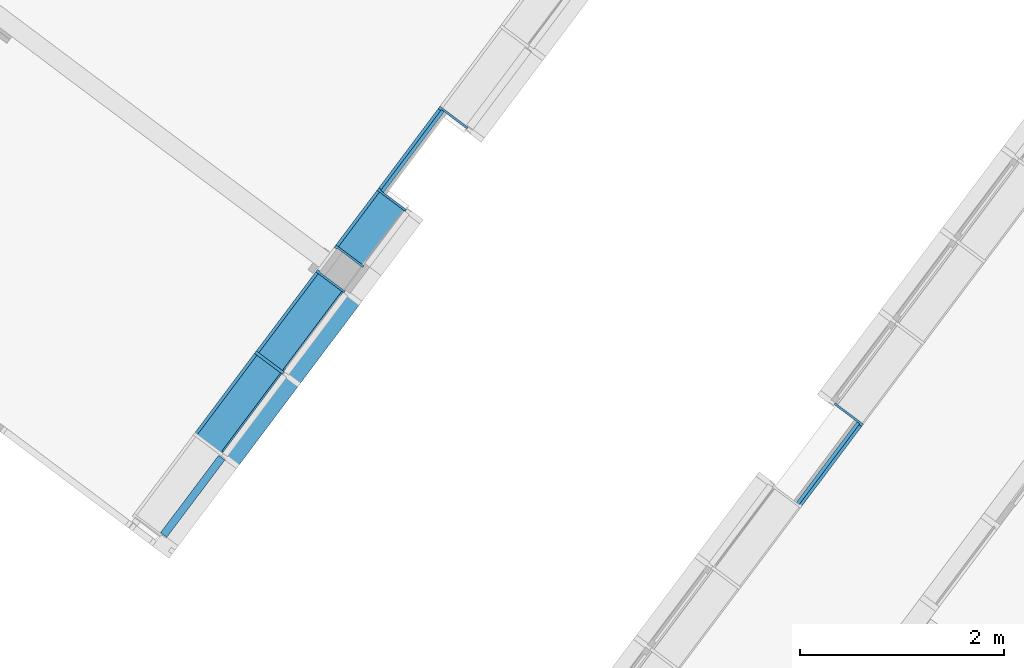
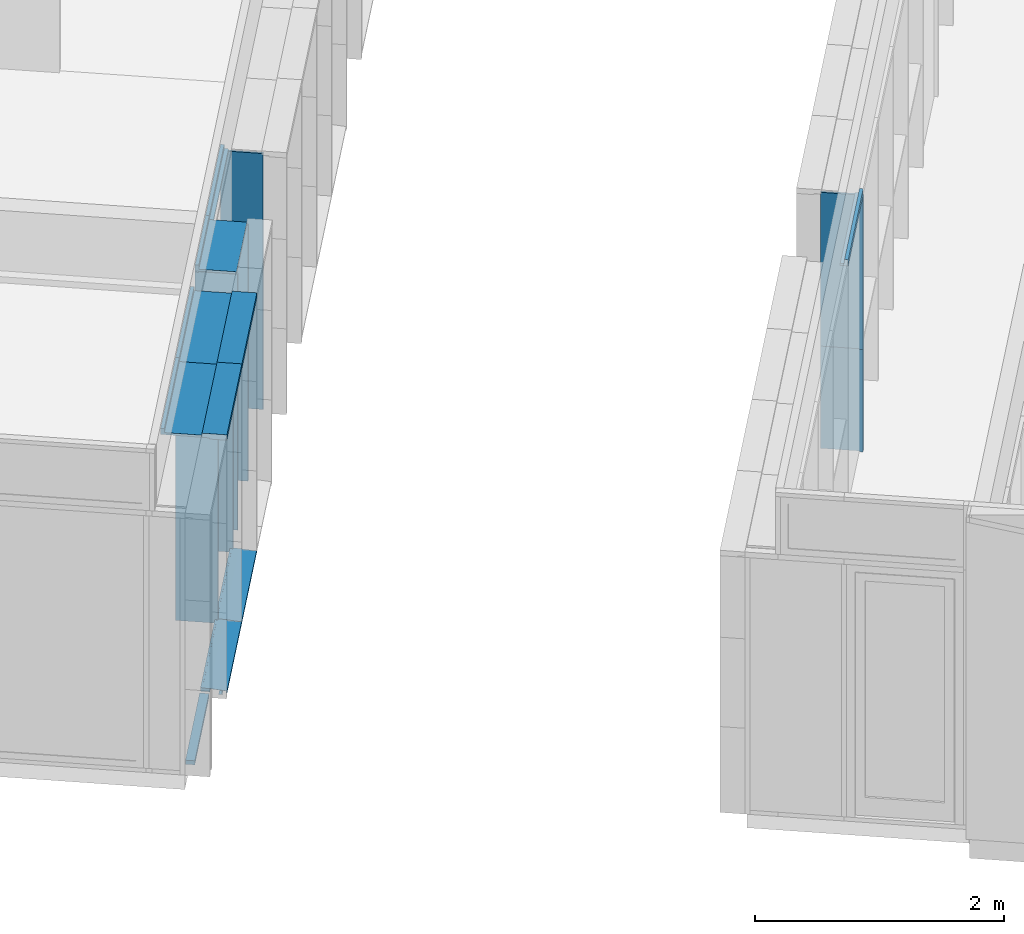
# One storey, part 43 of 243: 17 members, 3 elements without a shape of their own.
"""IFC2X3 building model written with IfcOpenShell, lengths in metres."""

from ifc_helpers import new_model, entity, si_unit, converted_unit, derived_unit, direction, frame, frame_2d, origin, origin_2d_with_axis, place, context, subcontext, project, spatial, polyline, circle_curve, parameter, trimmed, segment, composite_curve, rectangle, outline, extrude, source, transform, mapped, material, type_object, type_shapes, element, aggregate, save


model = new_model("IFC2X3")

# Units and contexts
model_context = context("Model", 3, precision=1e-05, world=origin(), true_north=direction((6.123031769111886e-17, 1.0)))
body_context = subcontext(model_context, "Body", "Model", "MODEL_VIEW")
ifc_project = project(units=[si_unit("LENGTHUNIT", "METRE"), si_unit("AREAUNIT", "SQUARE_METRE"), si_unit("VOLUMEUNIT", "CUBIC_METRE"), converted_unit("PLANEANGLEUNIT", "DEGREE", entity("IfcRatioMeasure", 0.017453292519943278), si_unit("PLANEANGLEUNIT", "RADIAN"), dimensions=[0, 0, 0, 0, 0, 0, 0]), si_unit("MASSUNIT", "GRAM", prefix="KILO"), derived_unit("MASSDENSITYUNIT", [(si_unit("MASSUNIT", "GRAM", prefix="KILO"), 1), (si_unit("LENGTHUNIT", "METRE"), -3)]), derived_unit("IONCONCENTRATIONUNIT", [(si_unit("MASSUNIT", "GRAM", prefix="KILO"), 1), (si_unit("LENGTHUNIT", "METRE"), -3)]), derived_unit("MOMENTOFINERTIAUNIT", [(si_unit("LENGTHUNIT", "METRE"), 4)]), si_unit("TIMEUNIT", "SECOND"), si_unit("FREQUENCYUNIT", "HERTZ"), si_unit("THERMODYNAMICTEMPERATUREUNIT", "DEGREE_CELSIUS"), derived_unit("THERMALTRANSMITTANCEUNIT", [(si_unit("MASSUNIT", "GRAM", prefix="KILO"), 1), (si_unit("THERMODYNAMICTEMPERATUREUNIT", "KELVIN"), -1), (si_unit("TIMEUNIT", "SECOND"), -3)]), derived_unit("THERMALCONDUCTANCEUNIT", [(si_unit("MASSUNIT", "GRAM", prefix="KILO"), 1), (si_unit("THERMODYNAMICTEMPERATUREUNIT", "KELVIN"), -1), (si_unit("TIMEUNIT", "SECOND"), -3), (si_unit("LENGTHUNIT", "METRE"), 1)]), derived_unit("VOLUMETRICFLOWRATEUNIT", [(si_unit("LENGTHUNIT", "METRE"), 3), (si_unit("TIMEUNIT", "SECOND"), -1)]), derived_unit("MASSFLOWRATEUNIT", [(si_unit("MASSUNIT", "GRAM", prefix="KILO"), 1), (si_unit("TIMEUNIT", "SECOND"), -1)]), derived_unit("ROTATIONALFREQUENCYUNIT", [(si_unit("TIMEUNIT", "SECOND"), -1)]), si_unit("ELECTRICCURRENTUNIT", "AMPERE"), si_unit("ELECTRICVOLTAGEUNIT", "VOLT"), si_unit("POWERUNIT", "WATT"), si_unit("FORCEUNIT", "NEWTON", prefix="KILO"), si_unit("ILLUMINANCEUNIT", "LUX"), si_unit("LUMINOUSFLUXUNIT", "LUMEN"), si_unit("LUMINOUSINTENSITYUNIT", "CANDELA"), derived_unit("USERDEFINED", [(si_unit("MASSUNIT", "GRAM", prefix="KILO"), -1), (si_unit("LENGTHUNIT", "METRE"), -2), (si_unit("TIMEUNIT", "SECOND"), 3), (si_unit("LUMINOUSFLUXUNIT", "LUMEN"), 1)]), derived_unit("USERDEFINED", [(si_unit("MASSUNIT", "GRAM", prefix="KILO"), 1), (si_unit("TIMEUNIT", "SECOND"), -3), (si_unit("LENGTHUNIT", "METRE"), 3), (si_unit("ELECTRICCURRENTUNIT", "AMPERE"), -2)]), derived_unit("SOUNDPOWERUNIT", [(si_unit("MASSUNIT", "GRAM", prefix="KILO"), 1), (si_unit("TIMEUNIT", "SECOND"), -3), (si_unit("LENGTHUNIT", "METRE"), 2)]), derived_unit("SOUNDPRESSUREUNIT", [(si_unit("MASSUNIT", "GRAM", prefix="KILO"), 1), (si_unit("LENGTHUNIT", "METRE"), -1), (si_unit("TIMEUNIT", "SECOND"), -2)]), derived_unit("LINEARVELOCITYUNIT", [(si_unit("LENGTHUNIT", "METRE"), 1), (si_unit("TIMEUNIT", "SECOND"), -1)]), si_unit("PRESSUREUNIT", "PASCAL"), derived_unit("USERDEFINED", [(si_unit("MASSUNIT", "GRAM", prefix="KILO"), 1), (si_unit("LENGTHUNIT", "METRE"), -2), (si_unit("TIMEUNIT", "SECOND"), -2)]), derived_unit("LINEARFORCEUNIT", [(si_unit("MASSUNIT", "GRAM", prefix="KILO"), 1), (si_unit("TIMEUNIT", "SECOND"), -2)]), derived_unit("PLANARFORCEUNIT", [(si_unit("MASSUNIT", "GRAM", prefix="KILO"), 1), (si_unit("LENGTHUNIT", "METRE"), -1), (si_unit("TIMEUNIT", "SECOND"), -2)]), derived_unit("SPECIFICHEATCAPACITYUNIT", [(si_unit("THERMODYNAMICTEMPERATUREUNIT", "KELVIN"), -1), (si_unit("LENGTHUNIT", "METRE"), 2), (si_unit("TIMEUNIT", "SECOND"), -2)]), derived_unit("HEATINGVALUEUNIT", [(si_unit("LENGTHUNIT", "METRE"), 2), (si_unit("TIMEUNIT", "SECOND"), -2)]), derived_unit("VAPORPERMEABILITYUNIT", [(si_unit("LENGTHUNIT", "METRE"), -1), (si_unit("TIMEUNIT", "SECOND"), 1)]), derived_unit("DYNAMICVISCOSITYUNIT", [(si_unit("MASSUNIT", "GRAM", prefix="KILO"), 1), (si_unit("TIMEUNIT", "SECOND"), -1), (si_unit("LENGTHUNIT", "METRE"), -1)]), derived_unit("THERMALEXPANSIONCOEFFICIENTUNIT", [(si_unit("THERMODYNAMICTEMPERATUREUNIT", "KELVIN"), -1)]), derived_unit("MODULUSOFELASTICITYUNIT", [(si_unit("MASSUNIT", "GRAM", prefix="KILO"), 1), (si_unit("LENGTHUNIT", "METRE"), -1), (si_unit("TIMEUNIT", "SECOND"), -2)]), derived_unit("ISOTHERMALMOISTURECAPACITYUNIT", [(si_unit("LENGTHUNIT", "METRE"), 3), (si_unit("MASSUNIT", "GRAM", prefix="KILO"), -1)]), derived_unit("MOISTUREDIFFUSIVITYUNIT", [(si_unit("TIMEUNIT", "SECOND"), -1), (si_unit("LENGTHUNIT", "METRE"), 2)])], contexts=[model_context])

# Site, building, storey
site_placement = place(None, frame((0.0, 0.0, 235.0), z_axis=(0.0, 0.0, 1.0), x_axis=(-0.7996477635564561, 0.6004693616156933, 0.0)))
site = spatial("IfcSite", under=ifc_project, at=site_placement, Name="Default", CompositionType="ELEMENT")
building_placement = place(site_placement, origin())
building = spatial("IfcBuilding", under=site, at=building_placement, CompositionType="ELEMENT")
storey_placement = place(building_placement, origin())
storey = spatial("IfcBuildingStorey", under=building, at=storey_placement, Name="P0- Escola", CompositionType="ELEMENT", Elevation=0.0)

# Curtain wall, members
curtain_wall_type_1 = type_object("IfcCurtainWallType", Name="Muro cortina:MC- EXT- MC2", PredefinedType="NOTDEFINED")
curtain_wall_1_placement = place(storey_placement, origin())
curtain_wall_1 = element("IfcCurtainWall", 1, at=curtain_wall_1_placement, inside=storey, type_object=curtain_wall_type_1, Name="Muro cortina:MC- EXT- MC2", ObjectType="Muro cortina:MC- EXT- MC2")
ifc_material_1 = material(Name="_Alumini- T1- Perfil")
member_type_1 = type_object("IfcMemberType", Name="Montante rectangular:MC- Alu- 140x52,5 cm- Fa patis- Superior", PredefinedType="MULLION", material=ifc_material_1)
shared_shape_1 = source(origin(), body_context, "Body", "SweptSolid", [
    extrude(outline(polyline([(-0.11366666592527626, -0.021249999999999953), (0.026333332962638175, -0.021249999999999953), (0.026333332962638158, -0.010000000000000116), (0.0873333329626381, -0.010000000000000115), (0.0873333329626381, 0.03125000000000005), (-0.11366666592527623, 0.031250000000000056), (-0.11366666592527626, -0.021249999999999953)])), frame((-0.031250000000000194, 0.0273333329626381, -1.0), z_axis=(0.0, 0.0, 1.0), x_axis=(0.0, -1.0, 0.0)), (0.0, 0.0, 1.0), 0.9999999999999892),
])
type_shapes(member_type_1, [shared_shape_1])
member_1_placement = place(curtain_wall_1_placement, frame((53.74514768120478, -22.415191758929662, 2.545), z_axis=(0.0, -1.0, 0.0), x_axis=(0.0, 0.0, 1.0)))
member_1 = element("IfcMember", 2, at=member_1_placement, type_object=member_type_1, material=ifc_material_1, Name="Montante rectangular:MC- Alu- 140x52,5 cm- Fa patis- Superior", ObjectType="Montante rectangular:MC- Alu- 140x52,5 cm- Fa patis- Superior", context=body_context, shape_type="MappedRepresentation", body=[
    mapped(shared_shape_1, transform((0.0, 0.0, 0.0), scale=1.0)),
])
member_2_placement = place(curtain_wall_1_placement, frame((53.74514768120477, -23.41519175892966, 2.545), z_axis=(0.0, -1.0, 0.0), x_axis=(0.0, 0.0, 1.0)))
member_2 = element("IfcMember", 3, at=member_2_placement, type_object=member_type_1, material=ifc_material_1, Name="Montante rectangular:MC- Alu- 140x52,5 cm- Fa patis- Superior", ObjectType="Montante rectangular:MC- Alu- 140x52,5 cm- Fa patis- Superior", context=body_context, shape_type="MappedRepresentation", body=[
    mapped(shared_shape_1, transform((0.0, 0.0, 0.0), scale=1.0)),
])
member_type_2 = type_object("IfcMemberType", Name="Montante rectangular:MC- Alu- 140x52,5 cm- Fa patis- inferior", PredefinedType="MULLION", material=ifc_material_1)
shared_shape_2 = source(origin(), body_context, "Body", "SweptSolid", [
    extrude(outline(composite_curve([segment(polyline([(0.1278672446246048, -0.02586710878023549), (0.14416724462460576, -0.025867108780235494)]), True, "CONTINUOUS"), segment(polyline([(0.14416724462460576, -0.025867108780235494), (0.1441672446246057, 0.009132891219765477)]), True, "CONTINUOUS"), segment(polyline([(0.1441672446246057, 0.009132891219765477), (0.06786724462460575, 0.009132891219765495)]), True, "CONTINUOUS"), segment(polyline([(0.06786724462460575, 0.009132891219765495), (0.06786724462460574, -0.021159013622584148)]), True, "CONTINUOUS"), segment(polyline([(0.06786724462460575, -0.02115901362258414), (-0.030132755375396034, -0.012332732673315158)]), True, "CONTINUOUS"), segment(polyline([(-0.03013275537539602, -0.012332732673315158), (-0.030132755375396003, 0.027132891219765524)]), True, "CONTINUOUS"), segment(polyline([(-0.030132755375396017, 0.02713289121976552), (-0.0021327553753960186, 0.02713289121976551)]), True, "CONTINUOUS"), segment(polyline([(-0.0021327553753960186, 0.027132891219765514), (-0.0021327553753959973, 0.029132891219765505)]), True, "CONTINUOUS"), segment(polyline([(-0.0021327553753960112, 0.029132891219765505), (-0.032132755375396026, 0.029132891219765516)]), True, "CONTINUOUS"), segment(polyline([(-0.032132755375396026, 0.029132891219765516), (-0.03213275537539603, -0.012152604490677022)]), True, "CONTINUOUS"), segment(polyline([(-0.03213275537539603, -0.012152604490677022), (-0.0701327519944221, -0.008730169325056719)]), True, "CONTINUOUS"), segment(polyline([(-0.0701327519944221, -0.008730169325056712), (-0.0701327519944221, 0.005766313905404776)]), True, "CONTINUOUS"), segment(trimmed(circle_curve(frame_2d((-0.0696327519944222, 0.0057663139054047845), x_axis=(-1.0, 0.0)), 0.0004999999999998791), [parameter(269.999999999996)], [parameter(0.0)], True, "PARAMETER"), False, "CONTINUOUS"), segment(polyline([(-0.0696327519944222, 0.00626631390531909), (-0.06213275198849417, 0.006266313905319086)]), True, "CONTINUOUS"), segment(polyline([(-0.06213275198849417, 0.006266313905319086), (-0.06213275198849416, 0.008266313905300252)]), True, "CONTINUOUS"), segment(polyline([(-0.06213275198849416, 0.008266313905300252), (-0.07013275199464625, 0.008266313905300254)]), True, "CONTINUOUS"), segment(trimmed(circle_curve(frame_2d((-0.07013275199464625, 0.006266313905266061), x_axis=(0.0, 1.0)), 0.0020000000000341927), [parameter(0.0)], [parameter(90.00000002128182)], True, "PARAMETER"), True, "CONTINUOUS"), segment(polyline([(-0.07213275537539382, 0.006266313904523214), (-0.07213275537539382, -0.008730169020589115)]), True, "CONTINUOUS"), segment(trimmed(circle_curve(frame_2d((-0.07013275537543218, -0.008730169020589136), x_axis=(-1.0, 0.0)), 0.0019999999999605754), [parameter(0.0)], [parameter(84.85359280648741)], True, "PARAMETER"), True, "CONTINUOUS"), segment(polyline([(-0.07031215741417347, -0.01072210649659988), (0.06786724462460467, -0.023167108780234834)]), True, "CONTINUOUS"), segment(polyline([(0.06786724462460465, -0.023167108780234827), (0.12786724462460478, -0.023167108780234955)]), True, "CONTINUOUS"), segment(polyline([(0.12786724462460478, -0.023167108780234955), (0.1278672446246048, -0.02586710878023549)]), True, "CONTINUOUS")], self_intersect=False)), frame((-0.029132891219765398, 0.06786724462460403, -0.9737499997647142), z_axis=(0.0, 0.0, 1.0), x_axis=(0.0, -1.0, 0.0)), (0.0, 0.0, 1.0), 0.9737499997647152),
])
type_shapes(member_type_2, [shared_shape_2])
member_3_placement = place(curtain_wall_1_placement, frame((53.74514768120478, -21.441441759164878, -0.02), z_axis=(0.0, 1.0, 0.0), x_axis=(0.0, 0.0, -1.0)))
member_3 = element("IfcMember", 4, at=member_3_placement, type_object=member_type_2, material=ifc_material_1, Name="Montante rectangular:MC- Alu- 140x52,5 cm- Fa patis- inferior", ObjectType="Montante rectangular:MC- Alu- 140x52,5 cm- Fa patis- inferior", context=body_context, shape_type="MappedRepresentation", body=[
    mapped(shared_shape_2, transform((0.0, 0.0, 0.0), scale=1.0)),
])
member_type_3 = type_object("IfcMemberType", Name="Montante rectangular:MC- Alu- 140x52,5 cm- Fa patis- inferior", PredefinedType="MULLION", material=ifc_material_1)
shared_shape_3 = source(origin(), body_context, "Body", "SweptSolid", [
    extrude(outline(composite_curve([segment(polyline([(0.1278672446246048, -0.02586710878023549), (0.14416724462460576, -0.025867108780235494)]), True, "CONTINUOUS"), segment(polyline([(0.14416724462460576, -0.025867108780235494), (0.1441672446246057, 0.009132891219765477)]), True, "CONTINUOUS"), segment(polyline([(0.1441672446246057, 0.009132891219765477), (0.06786724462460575, 0.009132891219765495)]), True, "CONTINUOUS"), segment(polyline([(0.06786724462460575, 0.009132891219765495), (0.06786724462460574, -0.021159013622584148)]), True, "CONTINUOUS"), segment(polyline([(0.06786724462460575, -0.02115901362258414), (-0.030132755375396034, -0.012332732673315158)]), True, "CONTINUOUS"), segment(polyline([(-0.03013275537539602, -0.012332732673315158), (-0.030132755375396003, 0.027132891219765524)]), True, "CONTINUOUS"), segment(polyline([(-0.030132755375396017, 0.02713289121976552), (-0.0021327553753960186, 0.02713289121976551)]), True, "CONTINUOUS"), segment(polyline([(-0.0021327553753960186, 0.027132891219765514), (-0.0021327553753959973, 0.029132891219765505)]), True, "CONTINUOUS"), segment(polyline([(-0.0021327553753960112, 0.029132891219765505), (-0.032132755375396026, 0.029132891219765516)]), True, "CONTINUOUS"), segment(polyline([(-0.032132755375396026, 0.029132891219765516), (-0.03213275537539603, -0.012152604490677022)]), True, "CONTINUOUS"), segment(polyline([(-0.03213275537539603, -0.012152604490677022), (-0.0701327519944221, -0.008730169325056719)]), True, "CONTINUOUS"), segment(polyline([(-0.0701327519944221, -0.008730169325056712), (-0.0701327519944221, 0.005766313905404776)]), True, "CONTINUOUS"), segment(trimmed(circle_curve(frame_2d((-0.0696327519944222, 0.0057663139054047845), x_axis=(-1.0, 0.0)), 0.0004999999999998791), [parameter(269.999999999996)], [parameter(0.0)], True, "PARAMETER"), False, "CONTINUOUS"), segment(polyline([(-0.0696327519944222, 0.00626631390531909), (-0.06213275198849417, 0.006266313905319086)]), True, "CONTINUOUS"), segment(polyline([(-0.06213275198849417, 0.006266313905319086), (-0.06213275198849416, 0.008266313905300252)]), True, "CONTINUOUS"), segment(polyline([(-0.06213275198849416, 0.008266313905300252), (-0.07013275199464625, 0.008266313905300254)]), True, "CONTINUOUS"), segment(trimmed(circle_curve(frame_2d((-0.07013275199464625, 0.006266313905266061), x_axis=(0.0, 1.0)), 0.0020000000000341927), [parameter(0.0)], [parameter(90.00000002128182)], True, "PARAMETER"), True, "CONTINUOUS"), segment(polyline([(-0.07213275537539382, 0.006266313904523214), (-0.07213275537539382, -0.008730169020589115)]), True, "CONTINUOUS"), segment(trimmed(circle_curve(frame_2d((-0.07013275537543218, -0.008730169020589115), x_axis=(-1.0, 0.0)), 0.0019999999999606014), [parameter(0.0)], [parameter(84.8535928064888)], True, "PARAMETER"), True, "CONTINUOUS"), segment(polyline([(-0.07031215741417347, -0.01072210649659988), (0.06786724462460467, -0.023167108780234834)]), True, "CONTINUOUS"), segment(polyline([(0.06786724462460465, -0.023167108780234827), (0.12786724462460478, -0.023167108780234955)]), True, "CONTINUOUS"), segment(polyline([(0.12786724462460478, -0.023167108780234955), (0.1278672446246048, -0.02586710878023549)]), True, "CONTINUOUS")], self_intersect=False)), frame((-0.029132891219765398, 0.06786724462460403, -1.0), z_axis=(0.0, 0.0, 1.0), x_axis=(0.0, -1.0, 0.0)), (0.0, 0.0, 1.0), 0.9999999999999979),
])
type_shapes(member_type_3, [shared_shape_3])
member_4_placement = place(curtain_wall_1_placement, frame((53.74514768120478, -22.415191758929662, -0.02), z_axis=(0.0, 1.0, 0.0), x_axis=(0.0, 0.0, -1.0)))
member_4 = element("IfcMember", 5, at=member_4_placement, type_object=member_type_3, material=ifc_material_1, Name="Montante rectangular:MC- Alu- 140x52,5 cm- Fa patis- inferior", ObjectType="Montante rectangular:MC- Alu- 140x52,5 cm- Fa patis- inferior", context=body_context, shape_type="MappedRepresentation", body=[
    mapped(shared_shape_3, transform((0.0, 0.0, 0.0), scale=1.0)),
])

curtain_wall_type_2 = type_object("IfcCurtainWallType", Name="Muro cortina:MC- INT- k7- Aules infantil", PredefinedType="NOTDEFINED")
curtain_wall_2_placement = place(storey_placement, origin())
curtain_wall_2 = element("IfcCurtainWall", 6, at=curtain_wall_2_placement, inside=storey, type_object=curtain_wall_type_2, Name="Muro cortina:MC- INT- k7- Aules infantil", ObjectType="Muro cortina:MC- INT- k7- Aules infantil")
ifc_material_2 = material(Name="_Fusta massisa- T1")
member_type_4 = type_object("IfcMemberType", Name="Montante rectangular:MC- Fusta- 35x3 cm- Centre", PredefinedType="MULLION", material=ifc_material_2)
shared_shape_4 = source(origin(), body_context, "Body", "SweptSolid", [
    extrude(rectangle(XDim=0.3450000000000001, YDim=0.030000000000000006, at=frame_2d((0.0, 1.3964523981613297e-16), x_axis=(1.0, 0.0))), frame((0.0, 0.07750000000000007, -2.5049999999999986), z_axis=(0.0, 0.0, 1.0), x_axis=(0.0, -1.0, 0.0)), (0.0, 0.0, 1.0), 2.5049999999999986),
])
type_shapes(member_type_4, [shared_shape_4])
member_5_placement = place(curtain_wall_2_placement, frame((54.04514768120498, -22.41519175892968, 0.0), z_axis=(0.0, 0.0, -1.0), x_axis=(0.0, -1.0, 0.0)))
member_5 = element("IfcMember", 7, at=member_5_placement, type_object=member_type_4, material=ifc_material_2, Name="Montante rectangular:MC- Fusta- 35x3 cm- Centre", ObjectType="Montante rectangular:MC- Fusta- 35x3 cm- Centre", context=body_context, shape_type="MappedRepresentation", body=[
    mapped(shared_shape_4, transform((0.0, 0.0, 0.0), scale=1.0)),
])
member_type_5 = type_object("IfcMemberType", Name="Montante rectangular:MC- Fusta- 35x3 cm- Pati aules- Remat superior", PredefinedType="MULLION", material=ifc_material_2)
shared_shape_5 = source(origin(), body_context, "Body", "SweptSolid", [
    extrude(outline(polyline([(-0.21333333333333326, -0.02666666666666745), (0.1216666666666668, -0.02666666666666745), (0.12166666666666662, 0.03333333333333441), (0.09166666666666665, 0.03333333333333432), (0.09166666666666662, -0.006666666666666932), (-0.2133333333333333, -0.006666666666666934), (-0.21333333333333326, -0.02666666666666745)])), frame((-0.033333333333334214, 0.026666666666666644, -1.0), z_axis=(0.0, 0.0, 1.0), x_axis=(0.0, -1.0, 0.0)), (0.0, 0.0, 1.0), 0.9999999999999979),
])
type_shapes(member_type_5, [shared_shape_5])
member_6_placement = place(curtain_wall_2_placement, frame((54.04514768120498, -22.41519175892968, 2.565), z_axis=(0.0, -1.0, 0.0), x_axis=(0.0, 0.0, 1.0)))
member_6 = element("IfcMember", 8, at=member_6_placement, type_object=member_type_5, material=ifc_material_2, Name="Montante rectangular:MC- Fusta- 35x3 cm- Pati aules- Remat superior", ObjectType="Montante rectangular:MC- Fusta- 35x3 cm- Pati aules- Remat superior", context=body_context, shape_type="MappedRepresentation", body=[
    mapped(shared_shape_5, transform((0.0, 0.0, 0.0), scale=1.0)),
])
member_7_placement = place(curtain_wall_2_placement, frame((54.04514768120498, -23.415191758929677, 2.565), z_axis=(0.0, -1.0, 0.0), x_axis=(0.0, 0.0, 1.0)))
member_7 = element("IfcMember", 9, at=member_7_placement, type_object=member_type_5, material=ifc_material_2, Name="Montante rectangular:MC- Fusta- 35x3 cm- Pati aules- Remat superior", ObjectType="Montante rectangular:MC- Fusta- 35x3 cm- Pati aules- Remat superior", context=body_context, shape_type="MappedRepresentation", body=[
    mapped(shared_shape_5, transform((0.0, 0.0, 0.0), scale=1.0)),
])
member_type_6 = type_object("IfcMemberType", Name="Montante rectangular:MC- Fusta- 35x3 cm- Pati aules- Remat dreta", PredefinedType="MULLION", material=ifc_material_2)
shared_shape_6 = source(origin(), body_context, "Body", "SweptSolid", [
    extrude(outline(polyline([(-0.22, -0.01666666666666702), (0.12500000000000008, -0.01666666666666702), (0.12500000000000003, 0.013333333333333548), (0.09500000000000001, 0.013333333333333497), (0.09499999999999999, 0.003333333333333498), (-0.22, 0.003333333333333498), (-0.22, -0.01666666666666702)])), frame((0.0016666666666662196, 0.03000000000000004, -2.504999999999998), z_axis=(0.0, 0.0, 1.0), x_axis=(0.0, -1.0, 0.0)), (0.0, 0.0, 1.0), 2.5049999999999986),
])
type_shapes(member_type_6, [shared_shape_6])
member_8_placement = place(curtain_wall_2_placement, frame((54.04514768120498, -23.415191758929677, 0.0), z_axis=(0.0, 0.0, -1.0), x_axis=(0.0, -1.0, 0.0)))
member_8 = element("IfcMember", 10, at=member_8_placement, type_object=member_type_6, material=ifc_material_2, Name="Montante rectangular:MC- Fusta- 35x3 cm- Pati aules- Remat dreta", ObjectType="Montante rectangular:MC- Fusta- 35x3 cm- Pati aules- Remat dreta", context=body_context, shape_type="MappedRepresentation", body=[
    mapped(shared_shape_6, transform((0.0, 0.0, 0.0), scale=1.0)),
])
member_9_placement = place(curtain_wall_2_placement, frame((54.04514768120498, -24.415191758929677, 0.0), z_axis=(0.0, 0.0, -1.0), x_axis=(0.0, -1.0, 0.0)))
member_9 = element("IfcMember", 11, at=member_9_placement, type_object=member_type_6, material=ifc_material_2, Name="Montante rectangular:MC- Fusta- 35x3 cm- Pati aules- Remat dreta", ObjectType="Montante rectangular:MC- Fusta- 35x3 cm- Pati aules- Remat dreta", context=body_context, shape_type="MappedRepresentation", body=[
    mapped(shared_shape_6, transform((0.0, 0.0, 0.0), scale=1.0)),
])
member_type_7 = type_object("IfcMemberType", Name="Montante rectangular:MC- Fusta- 35x3 cm- Pati aules- Remat superior", PredefinedType="MULLION", material=ifc_material_2)
shared_shape_7 = source(origin(), body_context, "Body", "SweptSolid", [
    extrude(outline(polyline([(-0.21333333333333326, -0.02666666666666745), (0.1216666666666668, -0.02666666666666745), (0.12166666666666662, 0.03333333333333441), (0.09166666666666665, 0.03333333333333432), (0.09166666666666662, -0.006666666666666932), (-0.2133333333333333, -0.006666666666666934), (-0.21333333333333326, -0.02666666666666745)])), frame((-0.033333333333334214, 0.026666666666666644, -0.6999999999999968), z_axis=(0.0, 0.0, 1.0), x_axis=(0.0, -1.0, 0.0)), (0.0, 0.0, 1.0), 0.6999999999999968),
])
type_shapes(member_type_7, [shared_shape_7])
member_10_placement = place(curtain_wall_2_placement, frame((54.04514768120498, -24.415191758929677, 2.565), z_axis=(0.0, -1.0, 0.0), x_axis=(0.0, 0.0, 1.0)))
member_10 = element("IfcMember", 12, at=member_10_placement, type_object=member_type_7, material=ifc_material_2, Name="Montante rectangular:MC- Fusta- 35x3 cm- Pati aules- Remat superior", ObjectType="Montante rectangular:MC- Fusta- 35x3 cm- Pati aules- Remat superior", context=body_context, shape_type="MappedRepresentation", body=[
    mapped(shared_shape_7, transform((0.0, 0.0, 0.0), scale=1.0)),
])
member_type_8 = type_object("IfcMemberType", Name="Montante rectangular:MC- Fusta- 35x3 cm- Pati aules- Remat superior pilar", PredefinedType="MULLION", material=ifc_material_2)
shared_shape_8 = source(origin(), body_context, "Body", "SweptSolid", [
    extrude(outline(polyline([(-0.03333333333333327, -0.02666666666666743), (0.031666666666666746, -0.02666666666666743), (0.031666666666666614, 0.03333333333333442), (0.0016666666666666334, 0.033333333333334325), (0.0016666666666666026, -0.006666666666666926), (-0.03333333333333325, -0.00666666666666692), (-0.03333333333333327, -0.02666666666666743)])), frame((-0.03333333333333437, -0.06333333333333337, -1.0), z_axis=(0.0, 0.0, 1.0), x_axis=(0.0, -1.0, 0.0)), (0.0, 0.0, 1.0), 0.9999999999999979),
])
type_shapes(member_type_8, [shared_shape_8])
member_11_placement = place(curtain_wall_2_placement, frame((54.04514768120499, -25.415191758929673, 2.565), z_axis=(0.0, -1.0, 0.0), x_axis=(0.0, 0.0, 1.0)))
member_11 = element("IfcMember", 13, at=member_11_placement, type_object=member_type_8, material=ifc_material_2, Name="Montante rectangular:MC- Fusta- 35x3 cm- Pati aules- Remat superior pilar", ObjectType="Montante rectangular:MC- Fusta- 35x3 cm- Pati aules- Remat superior pilar", context=body_context, shape_type="MappedRepresentation", body=[
    mapped(shared_shape_8, transform((0.0, 0.0, 0.0), scale=1.0)),
])
member_type_9 = type_object("IfcMemberType", Name="Montante rectangular:MC- Fusta- 35x3 cm- Pati aules- Remat esquerra", PredefinedType="MULLION", material=ifc_material_2)
shared_shape_9 = source(origin(), body_context, "Body", "SweptSolid", [
    extrude(outline(polyline([(0.09500000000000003, -0.013333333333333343), (0.12500000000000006, -0.013333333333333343), (0.12500000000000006, 0.01666666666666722), (-0.22000000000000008, 0.016666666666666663), (-0.22000000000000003, -0.0033333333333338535), (0.09499999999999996, -0.003333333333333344), (0.09500000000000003, -0.013333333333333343)])), frame((-0.0016666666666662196, 0.03000000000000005, -2.504999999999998), z_axis=(0.0, 0.0, 1.0), x_axis=(0.0, -1.0, 0.0)), (0.0, 0.0, 1.0), 2.5049999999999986),
])
type_shapes(member_type_9, [shared_shape_9])
member_12_placement = place(curtain_wall_2_placement, frame((54.04514768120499, -25.415191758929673, 0.0), z_axis=(0.0, 0.0, -1.0), x_axis=(0.0, -1.0, 0.0)))
member_12 = element("IfcMember", 14, at=member_12_placement, type_object=member_type_9, material=ifc_material_2, Name="Montante rectangular:MC- Fusta- 35x3 cm- Pati aules- Remat esquerra", ObjectType="Montante rectangular:MC- Fusta- 35x3 cm- Pati aules- Remat esquerra", context=body_context, shape_type="MappedRepresentation", body=[
    mapped(shared_shape_9, transform((0.0, 0.0, 0.0), scale=1.0)),
])
member_type_10 = type_object("IfcMemberType", Name="Montante rectangular:MC- Fusta- 35x3 cm- Pati aules- Remat esquerra", PredefinedType="MULLION", material=ifc_material_2)
shared_shape_10 = source(origin(), body_context, "Body", "SweptSolid", [
    extrude(outline(polyline([(0.09500000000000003, -0.013333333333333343), (0.12500000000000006, -0.013333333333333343), (0.12500000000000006, 0.01666666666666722), (-0.22000000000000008, 0.016666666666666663), (-0.22000000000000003, -0.0033333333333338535), (0.09499999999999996, -0.003333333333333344), (0.09500000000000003, -0.013333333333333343)])), frame((-0.0016666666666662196, 0.03000000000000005, -2.504999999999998), z_axis=(0.0, 0.0, 1.0), x_axis=(0.0, -1.0, 0.0)), (0.0, 0.0, 1.0), 2.5049999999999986),
])
type_shapes(member_type_10, [shared_shape_10])
member_13_placement = place(curtain_wall_2_placement, frame((54.04514768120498, -23.715191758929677, 0.0), z_axis=(0.0, 0.0, -1.0), x_axis=(0.0, -1.0, 0.0)))
member_13 = element("IfcMember", 15, at=member_13_placement, type_object=member_type_10, material=ifc_material_2, Name="Montante rectangular:MC- Fusta- 35x3 cm- Pati aules- Remat esquerra", ObjectType="Montante rectangular:MC- Fusta- 35x3 cm- Pati aules- Remat esquerra", context=body_context, shape_type="MappedRepresentation", body=[
    mapped(shared_shape_10, transform((0.0, 0.0, 0.0), scale=1.0)),
])
aggregate(curtain_wall_2, [member_6, member_5, member_7, member_8, member_10, member_9, member_11, member_12, member_13])

curtain_wall_type_3 = type_object("IfcCurtainWallType", Name="Muro cortina:MC- INT- k2", PredefinedType="NOTDEFINED")
curtain_wall_3_placement = place(storey_placement, origin())
curtain_wall_3 = element("IfcCurtainWall", 16, at=curtain_wall_3_placement, inside=storey, type_object=curtain_wall_type_3, Name="Muro cortina:MC- INT- k2", ObjectType="Muro cortina:MC- INT- k2")
member_type_11 = type_object("IfcMemberType", Name="Montante rectangular:MC- Fusta- 35x3 cm- Pati aules- Remat superior pilar", PredefinedType="MULLION", material=ifc_material_2)
shared_shape_11 = source(origin(), body_context, "Body", "SweptSolid", [
    extrude(outline(polyline([(-0.03166666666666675, -0.02666666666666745), (0.03333333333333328, -0.02666666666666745), (0.03333333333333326, -0.00666666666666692), (-0.0016666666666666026, -0.006666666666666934), (-0.0016666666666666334, 0.03333333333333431), (-0.03166666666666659, 0.03333333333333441), (-0.03166666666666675, -0.02666666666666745)])), frame((-0.03333333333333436, 0.06333333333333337, -1.0), z_axis=(0.0, 0.0, 1.0), x_axis=(0.0, -1.0, 0.0)), (0.0, 0.0, 1.0), 0.9999999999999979),
])
type_shapes(member_type_11, [shared_shape_11])
member_14_placement = place(curtain_wall_3_placement, frame((49.04514768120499, -25.41519175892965, 2.565), z_axis=(0.0, -1.0, 0.0), x_axis=(0.0, 0.0, 1.0)))
member_14 = element("IfcMember", 17, at=member_14_placement, type_object=member_type_11, material=ifc_material_2, Name="Montante rectangular:MC- Fusta- 35x3 cm- Pati aules- Remat superior pilar", ObjectType="Montante rectangular:MC- Fusta- 35x3 cm- Pati aules- Remat superior pilar", context=body_context, shape_type="MappedRepresentation", body=[
    mapped(shared_shape_11, transform((0.0, 0.0, 0.0), scale=1.0)),
])
member_type_12 = type_object("IfcMemberType", Name="Montante rectangular:MC- Fusta- 35x3 cm- Pati aules- Remat esquerra", PredefinedType="MULLION", material=ifc_material_2)
shared_shape_12 = source(origin(), body_context, "Body", "SweptSolid", [
    extrude(outline(polyline([(-0.12500000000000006, -0.013333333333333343), (-0.09500000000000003, -0.013333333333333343), (-0.09499999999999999, -0.0033333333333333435), (0.22000000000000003, -0.003333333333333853), (0.22000000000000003, 0.016666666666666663), (-0.12500000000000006, 0.01666666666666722), (-0.12500000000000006, -0.013333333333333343)])), frame((-0.00166666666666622, -0.03000000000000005, -1.0), z_axis=(0.0, 0.0, 1.0), x_axis=(0.0, -1.0, 0.0)), (0.0, 0.0, 1.0), 1.0),
])
type_shapes(member_type_12, [shared_shape_12])
member_15_placement = place(curtain_wall_3_placement, frame((49.04514768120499, -25.41519175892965, 0.0), z_axis=(0.0, 0.0, -1.0), x_axis=(0.0, -1.0, 0.0)))
member_15 = element("IfcMember", 18, at=member_15_placement, type_object=member_type_12, material=ifc_material_2, Name="Montante rectangular:MC- Fusta- 35x3 cm- Pati aules- Remat esquerra", ObjectType="Montante rectangular:MC- Fusta- 35x3 cm- Pati aules- Remat esquerra", context=body_context, shape_type="MappedRepresentation", body=[
    mapped(shared_shape_12, transform((0.0, 0.0, 0.0), scale=1.0)),
])
member_type_13 = type_object("IfcMemberType", Name="Montante rectangular:MC- Fusta- 35x3 cm- Pati aules- Remat esquerra", PredefinedType="MULLION", material=ifc_material_2)
shared_shape_13 = source(origin(), body_context, "Body", "SweptSolid", [
    extrude(outline(polyline([(-0.12500000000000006, -0.013333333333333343), (-0.09500000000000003, -0.013333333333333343), (-0.09499999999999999, -0.0033333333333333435), (0.22000000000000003, -0.003333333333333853), (0.22000000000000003, 0.016666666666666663), (-0.12500000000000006, 0.01666666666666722), (-0.12500000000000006, -0.013333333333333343)])), frame((-0.00166666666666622, -0.03000000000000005, -1.504999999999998), z_axis=(0.0, 0.0, 1.0), x_axis=(0.0, -1.0, 0.0)), (0.0, 0.0, 1.0), 1.504999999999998),
])
type_shapes(member_type_13, [shared_shape_13])
member_16_placement = place(curtain_wall_3_placement, frame((49.04514768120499, -25.41519175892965, 1.0), z_axis=(0.0, 0.0, -1.0), x_axis=(0.0, -1.0, 0.0)))
member_16 = element("IfcMember", 19, at=member_16_placement, type_object=member_type_13, material=ifc_material_2, Name="Montante rectangular:MC- Fusta- 35x3 cm- Pati aules- Remat esquerra", ObjectType="Montante rectangular:MC- Fusta- 35x3 cm- Pati aules- Remat esquerra", context=body_context, shape_type="MappedRepresentation", body=[
    mapped(shared_shape_13, transform((0.0, 0.0, 0.0), scale=1.0)),
])
aggregate(curtain_wall_3, [member_14, member_15, member_16])

# Member
member_type_14 = type_object("IfcMemberType", Name="Montante rectangular:MC- Alu- 140x52,5 cm- Fa patis- inferior porta", PredefinedType="MULLION", material=ifc_material_1)
shared_shape_14 = source(origin(), body_context, "Body", "SweptSolid", [
    extrude(rectangle(XDim=0.07629999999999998, YDim=0.04, at=origin_2d_with_axis()), frame((-0.020000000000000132, -0.0381500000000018, -0.9474999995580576), z_axis=(0.0, 0.0, 1.0), x_axis=(0.0, -1.0, 0.0)), (0.0, 0.0, 1.0), 0.9474999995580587),
])
type_shapes(member_type_14, [shared_shape_14])
member_17_placement = place(curtain_wall_1_placement, frame((53.74514768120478, -20.441441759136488, -0.02), z_axis=(0.0, 1.0, 0.0), x_axis=(0.0, 0.0, -1.0)))
member_17 = element("IfcMember", 20, at=member_17_placement, type_object=member_type_14, material=ifc_material_1, Name="Montante rectangular:MC- Alu- 140x52,5 cm- Fa patis- inferior porta", ObjectType="Montante rectangular:MC- Alu- 140x52,5 cm- Fa patis- inferior porta", context=body_context, shape_type="MappedRepresentation", body=[
    mapped(shared_shape_14, transform((0.0, 0.0, 0.0), scale=1.0)),
])

aggregate(curtain_wall_1, [member_17, member_3, member_1, member_4, member_2])

save(model, "model.ifc")
